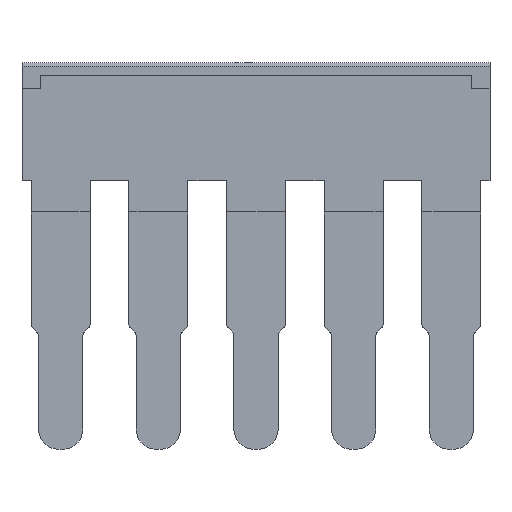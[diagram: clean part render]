
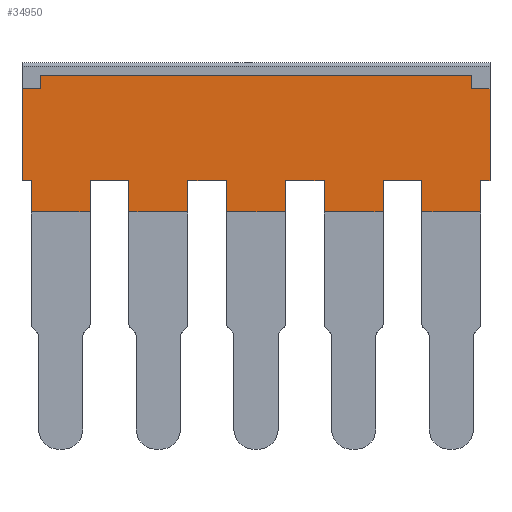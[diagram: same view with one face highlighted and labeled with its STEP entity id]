
A CAD part, top view. The second image highlights one B-rep face of the part: STEP entity #34950.
In plain terms, the highlighted planar face has unit normal (0, 0, 1) as drawn and (0, -1, 0) by its records, which use the part's own axes.
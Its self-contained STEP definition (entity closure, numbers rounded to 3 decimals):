
#500=CARTESIAN_POINT('',(19.05,-0.9,-20.277));
#510=VERTEX_POINT('',#500);
#560=CARTESIAN_POINT('',(0.,-0.9,-20.277));
#570=DIRECTION('',(-1.,0.,0.));
#580=VECTOR('',#570,1.);
#590=LINE('',#560,#580);
#600=CARTESIAN_POINT('',(20.05,-0.9,-20.277));
#610=VERTEX_POINT('',#600);
#620=EDGE_CURVE('',#610,#510,#590,.T.);
#3920=CARTESIAN_POINT('',(14.25,-0.9,-15.277));
#3930=VERTEX_POINT('',#3920);
#3960=CARTESIAN_POINT('',(14.25,-0.9,0.));
#3970=DIRECTION('',(0.,0.,-1.));
#3980=VECTOR('',#3970,1.);
#3990=LINE('',#3960,#3980);
#4000=CARTESIAN_POINT('',(14.25,-0.9,-13.577));
#4010=VERTEX_POINT('',#4000);
#4020=EDGE_CURVE('',#4010,#3930,#3990,.T.);
#5030=CARTESIAN_POINT('',(0.45,-0.9,
-13.577));
#5040=VERTEX_POINT('',#5030);
#5070=CARTESIAN_POINT('',(0.45,-0.9,0.));
#5080=DIRECTION('',(0.,0.,1.));
#5090=VECTOR('',#5080,1.);
#5100=LINE('',#5070,#5090);
#5110=CARTESIAN_POINT('',(0.45,-0.9,
-15.277));
#5120=VERTEX_POINT('',#5110);
#5130=EDGE_CURVE('',#5120,#5040,#5100,.T.);
#5710=CARTESIAN_POINT('',(8.95,-0.9,
-13.577));
#5720=VERTEX_POINT('',#5710);
#5770=CARTESIAN_POINT('',(0.,-0.9,-13.577));
#5780=DIRECTION('',(-1.,0.,0.));
#5790=VECTOR('',#5780,1.);
#5800=LINE('',#5770,#5790);
#5810=CARTESIAN_POINT('',(5.75,-0.9,
-13.577));
#5820=VERTEX_POINT('',#5810);
#5830=EDGE_CURVE('',#5720,#5820,#5800,.T.);
#7460=CARTESIAN_POINT('',(19.55,-0.9,-15.277));
#7470=VERTEX_POINT('',#7460);
#7640=CARTESIAN_POINT('',(20.05,-0.9,-15.277));
#7650=VERTEX_POINT('',#7640);
#7680=CARTESIAN_POINT('',(0.,-0.9,-15.277));
#7690=DIRECTION('',(1.,0.,0.));
#7700=VECTOR('',#7690,1.);
#7710=LINE('',#7680,#7700);
#7720=EDGE_CURVE('',#7470,#7650,#7710,.T.);
#8600=CARTESIAN_POINT('',(5.75,-0.9,0.));
#8610=DIRECTION('',(0.,0.,1.));
#8620=VECTOR('',#8610,1.);
#8630=LINE('',#8600,#8620);
#8640=CARTESIAN_POINT('',(5.75,-0.9,
-15.277));
#8650=VERTEX_POINT('',#8640);
#8660=EDGE_CURVE('',#8650,#5820,#8630,.T.);
#9300=CARTESIAN_POINT('',(11.05,-0.9,-13.577));
#9310=VERTEX_POINT('',#9300);
#9340=CARTESIAN_POINT('',(11.05,-0.9,0.));
#9350=DIRECTION('',(0.,0.,1.));
#9360=VECTOR('',#9350,1.);
#9370=LINE('',#9340,#9360);
#9380=CARTESIAN_POINT('',(11.05,-0.9,-15.277));
#9390=VERTEX_POINT('',#9380);
#9400=EDGE_CURVE('',#9390,#9310,#9370,.T.);
#12230=CARTESIAN_POINT('',(20.05,-0.9,0.));
#12240=DIRECTION('',(0.,0.,1.));
#12250=VECTOR('',#12240,1.);
#12260=LINE('',#12230,#12250);
#12270=EDGE_CURVE('',#610,#7650,#12260,.T.);
#13320=CARTESIAN_POINT('',(8.95,-0.9,
-15.277));
#13330=VERTEX_POINT('',#13320);
#13360=CARTESIAN_POINT('',(8.95,-0.9,0.));
#13370=DIRECTION('',(0.,0.,-1.));
#13380=VECTOR('',#13370,1.);
#13390=LINE('',#13360,#13380);
#13400=EDGE_CURVE('',#5720,#13330,#13390,.T.);
#14490=CARTESIAN_POINT('',(19.05,-0.9,-20.977));
#14500=VERTEX_POINT('',#14490);
#14530=CARTESIAN_POINT('',(19.05,-0.9,0.));
#14540=DIRECTION('',(0.,0.,-1.));
#14550=VECTOR('',#14540,1.);
#14560=LINE('',#14530,#14550);
#14570=EDGE_CURVE('',#510,#14500,#14560,.T.);
#15060=CARTESIAN_POINT('',(0.,-0.9,-15.277));
#15070=DIRECTION('',(1.,0.,0.));
#15080=VECTOR('',#15070,1.);
#15090=LINE('',#15060,#15080);
#15100=EDGE_CURVE('',#13330,#9390,#15090,.T.);
#17350=CARTESIAN_POINT('',(3.65,-0.9,
-15.277));
#17360=VERTEX_POINT('',#17350);
#17410=CARTESIAN_POINT('',(3.65,-0.9,0.));
#17420=DIRECTION('',(0.,0.,-1.));
#17430=VECTOR('',#17420,1.);
#17440=LINE('',#17410,#17430);
#17450=CARTESIAN_POINT('',(3.65,-0.9,
-13.577));
#17460=VERTEX_POINT('',#17450);
#17470=EDGE_CURVE('',#17460,#17360,#17440,.T.);
#18660=CARTESIAN_POINT('',(0.,-0.9,-15.277));
#18670=DIRECTION('',(1.,0.,0.));
#18680=VECTOR('',#18670,1.);
#18690=LINE('',#18660,#18680);
#18700=EDGE_CURVE('',#17360,#8650,#18690,.T.);
#19490=CARTESIAN_POINT('',(-1.65,-0.9,
-13.577));
#19500=VERTEX_POINT('',#19490);
#19550=CARTESIAN_POINT('',(26.5,-0.9,
-13.577));
#19560=DIRECTION('',(-1.,0.,0.));
#19570=VECTOR('',#19560,1.);
#19580=LINE('',#19550,#19570);
#19590=CARTESIAN_POINT('',(-4.85,-0.9,
-13.577));
#19600=VERTEX_POINT('',#19590);
#19610=EDGE_CURVE('',#19500,#19600,#19580,.T.);
#20500=CARTESIAN_POINT('',(16.35,-0.9,-15.277));
#20510=VERTEX_POINT('',#20500);
#20540=CARTESIAN_POINT('',(0.,-0.9,-15.277));
#20550=DIRECTION('',(1.,0.,0.));
#20560=VECTOR('',#20550,1.);
#20570=LINE('',#20540,#20560);
#20580=EDGE_CURVE('',#3930,#20510,#20570,.T.);
#21920=CARTESIAN_POINT('',(16.35,-0.9,0.));
#21930=DIRECTION('',(0.,0.,1.));
#21940=VECTOR('',#21930,1.);
#21950=LINE('',#21920,#21940);
#21960=CARTESIAN_POINT('',(16.35,-0.9,-13.577));
#21970=VERTEX_POINT('',#21960);
#21980=EDGE_CURVE('',#20510,#21970,#21950,.T.);
#22670=CARTESIAN_POINT('',(19.55,-0.9,0.));
#22680=DIRECTION('',(0.,0.,-1.));
#22690=VECTOR('',#22680,1.);
#22700=LINE('',#22670,#22690);
#22710=CARTESIAN_POINT('',(19.55,-0.9,-13.577));
#22720=VERTEX_POINT('',#22710);
#22730=EDGE_CURVE('',#22720,#7470,#22700,.T.);
#24440=CARTESIAN_POINT('',(0.,-0.9,-13.577));
#24450=DIRECTION('',(-1.,0.,0.));
#24460=VECTOR('',#24450,1.);
#24470=LINE('',#24440,#24460);
#24480=EDGE_CURVE('',#4010,#9310,#24470,.T.);
#24810=CARTESIAN_POINT('',(0.,-0.9,-13.577));
#24820=DIRECTION('',(-1.,0.,0.));
#24830=VECTOR('',#24820,1.);
#24840=LINE('',#24810,#24830);
#24850=EDGE_CURVE('',#22720,#21970,#24840,.T.);
#29670=CARTESIAN_POINT('',(0.,-0.9,-13.577));
#29680=DIRECTION('',(-1.,0.,0.));
#29690=VECTOR('',#29680,1.);
#29700=LINE('',#29670,#29690);
#29710=EDGE_CURVE('',#17460,#5040,#29700,.T.);
#31820=CARTESIAN_POINT('',(-1.65,-0.9,
-15.277));
#31830=VERTEX_POINT('',#31820);
#31880=CARTESIAN_POINT('',(26.5,-0.9,
-15.277));
#31890=DIRECTION('',(1.,0.,0.));
#31900=VECTOR('',#31890,1.);
#31910=LINE('',#31880,#31900);
#31920=EDGE_CURVE('',#31830,#5120,#31910,.T.);
#34150=CARTESIAN_POINT('',(37.15,-0.9,
-14.277));
#34160=DIRECTION('',(0.,1.,0.));
#34170=DIRECTION('',(0.,0.,1.));
#34180=AXIS2_PLACEMENT_3D('',#34150,#34160,#34170);
#34190=PLANE('',#34180);
#34200=CARTESIAN_POINT('',(-4.35,-0.9,
0.));
#34210=DIRECTION('',(0.,0.,-1.));
#34220=VECTOR('',#34210,1.);
#34230=LINE('',#34200,#34220);
#34240=CARTESIAN_POINT('',(-4.35,-0.9,
-20.277));
#34250=VERTEX_POINT('',#34240);
#34260=CARTESIAN_POINT('',(-4.35,-0.9,
-20.977));
#34270=VERTEX_POINT('',#34260);
#34280=EDGE_CURVE('',#34250,#34270,#34230,.T.);
#34290=ORIENTED_EDGE('',*,*,#34280,.T.);
#34300=CARTESIAN_POINT('',(26.5,-0.9,
-20.277));
#34310=DIRECTION('',(-1.,0.,0.));
#34320=VECTOR('',#34310,1.);
#34330=LINE('',#34300,#34320);
#34340=CARTESIAN_POINT('',(-5.35,-0.9,
-20.277));
#34350=VERTEX_POINT('',#34340);
#34360=EDGE_CURVE('',#34250,#34350,#34330,.T.);
#34370=ORIENTED_EDGE('',*,*,#34360,.F.);
#34380=CARTESIAN_POINT('',(-5.35,-0.9,
0.));
#34390=DIRECTION('',(0.,0.,1.));
#34400=VECTOR('',#34390,1.);
#34410=LINE('',#34380,#34400);
#34420=CARTESIAN_POINT('',(-5.35,-0.9,
-15.277));
#34430=VERTEX_POINT('',#34420);
#34440=EDGE_CURVE('',#34350,#34430,#34410,.T.);
#34450=ORIENTED_EDGE('',*,*,#34440,.F.);
#34460=CARTESIAN_POINT('',(26.5,-0.9,
-15.277));
#34470=DIRECTION('',(1.,0.,0.));
#34480=VECTOR('',#34470,1.);
#34490=LINE('',#34460,#34480);
#34500=CARTESIAN_POINT('',(-4.85,-0.9,
-15.277));
#34510=VERTEX_POINT('',#34500);
#34520=EDGE_CURVE('',#34430,#34510,#34490,.T.);
#34530=ORIENTED_EDGE('',*,*,#34520,.F.);
#34540=CARTESIAN_POINT('',(-4.85,-0.9,
0.));
#34550=DIRECTION('',(0.,0.,1.));
#34560=VECTOR('',#34550,1.);
#34570=LINE('',#34540,#34560);
#34580=EDGE_CURVE('',#34510,#19600,#34570,.T.);
#34590=ORIENTED_EDGE('',*,*,#34580,.F.);
#34600=ORIENTED_EDGE('',*,*,#19610,.T.);
#34610=CARTESIAN_POINT('',(-1.65,-0.9,
0.));
#34620=DIRECTION('',(0.,0.,-1.));
#34630=VECTOR('',#34620,1.);
#34640=LINE('',#34610,#34630);
#34650=EDGE_CURVE('',#19500,#31830,#34640,.T.);
#34660=ORIENTED_EDGE('',*,*,#34650,.F.);
#34670=ORIENTED_EDGE('',*,*,#31920,.F.);
#34680=ORIENTED_EDGE('',*,*,#5130,.F.);
#34690=ORIENTED_EDGE('',*,*,#29710,.T.);
#34700=ORIENTED_EDGE('',*,*,#17470,.F.);
#34710=ORIENTED_EDGE('',*,*,#18700,.F.);
#34720=ORIENTED_EDGE('',*,*,#8660,.F.);
#34730=ORIENTED_EDGE('',*,*,#5830,.T.);
#34740=ORIENTED_EDGE('',*,*,#13400,.F.);
#34750=ORIENTED_EDGE('',*,*,#15100,.F.);
#34760=ORIENTED_EDGE('',*,*,#9400,.F.);
#34770=ORIENTED_EDGE('',*,*,#24480,.T.);
#34780=ORIENTED_EDGE('',*,*,#4020,.F.);
#34790=ORIENTED_EDGE('',*,*,#20580,.F.);
#34800=ORIENTED_EDGE('',*,*,#21980,.F.);
#34810=ORIENTED_EDGE('',*,*,#24850,.T.);
#34820=ORIENTED_EDGE('',*,*,#22730,.F.);
#34830=ORIENTED_EDGE('',*,*,#7720,.F.);
#34840=ORIENTED_EDGE('',*,*,#12270,.T.);
#34850=ORIENTED_EDGE('',*,*,#620,.F.);
#34860=ORIENTED_EDGE('',*,*,#14570,.F.);
#34870=CARTESIAN_POINT('',(26.5,-0.9,
-20.977));
#34880=DIRECTION('',(-1.,0.,0.));
#34890=VECTOR('',#34880,1.);
#34900=LINE('',#34870,#34890);
#34910=EDGE_CURVE('',#14500,#34270,#34900,.T.);
#34920=ORIENTED_EDGE('',*,*,#34910,.F.);
#34930=EDGE_LOOP('',(#34920,#34860,#34850,#34840,#34830,#34820,#34810,
#34800,#34790,#34780,#34770,#34760,#34750,#34740,#34730,#34720,#34710,
#34700,#34690,#34680,#34670,#34660,#34600,#34590,#34530,#34450,#34370,
#34290));
#34940=FACE_OUTER_BOUND('',#34930,.T.);
#34950=ADVANCED_FACE('',(#34940),#34190,.F.);
